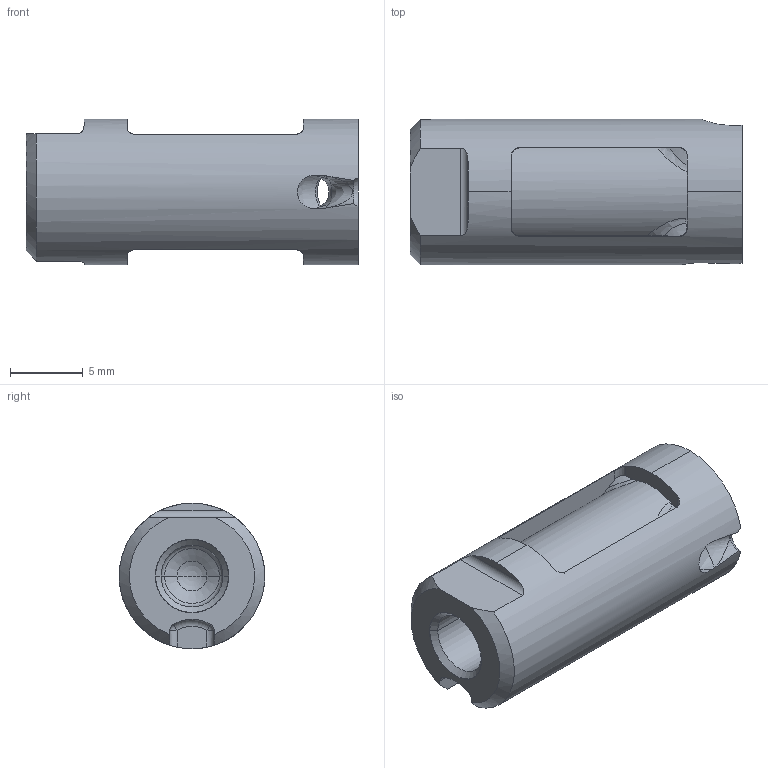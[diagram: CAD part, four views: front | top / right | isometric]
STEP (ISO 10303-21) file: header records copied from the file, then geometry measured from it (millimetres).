
FILE_DESCRIPTION((''),'2;1');
FILE_NAME('TGR10-16-S1','2004-03-24T',('tmeister'),(''),'PRO/ENGINEER BY PARAMETRIC TECHNOLOGY CORPORATION, 2002270','PRO/ENGINEER BY PARAMETRIC TECHNOLOGY CORPORATION, 2002270','');
FILE_SCHEMA(('CONFIG_CONTROL_DESIGN'));
Length unit declared in the file: millimetre
Products named in the file (1): TGR10-16-S1
Bounding box: 22.8 x 10 x 10 mm (x, y, z)
Volume: 1278.5 mm3; surface area: 1440.5 mm2
Topology: 1 solids, 2 shells, 80 faces, 282 edges, 203 vertices
Faces by surface type: bspline 20, plane 19, cylinder 18, cone 15, sphere 5, torus 3
Entity records: 5253 total; most frequent: CARTESIAN_POINT 3254, ORIENTED_EDGE 418, DIRECTION 298, EDGE_CURVE 211, B_SPLINE_CURVE_WITH_KNOTS 150, VERTEX_POINT 134, AXIS2_PLACEMENT_3D 108, EDGE_LOOP 83
